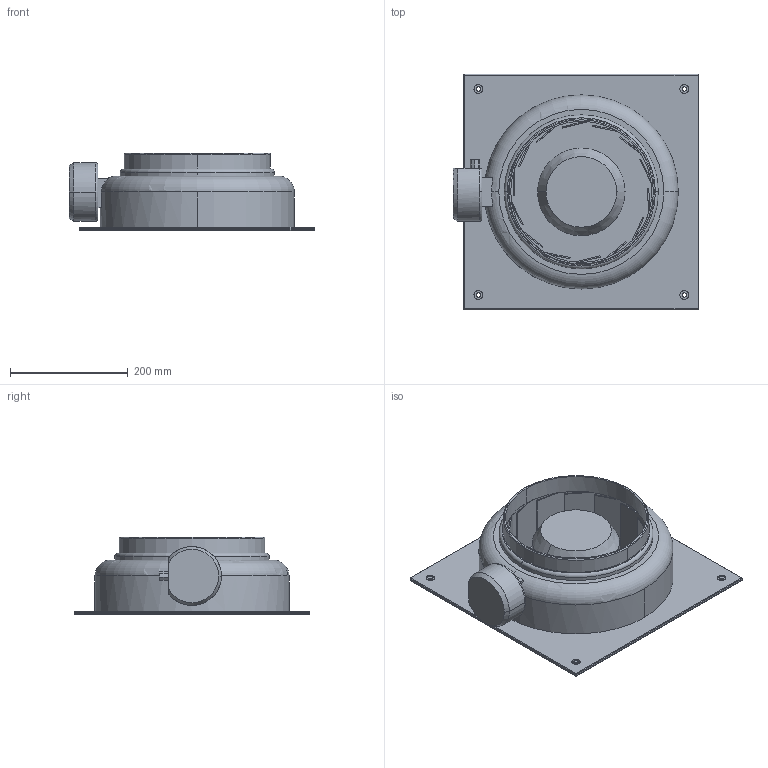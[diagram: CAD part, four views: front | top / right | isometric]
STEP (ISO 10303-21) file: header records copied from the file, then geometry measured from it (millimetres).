
FILE_DESCRIPTION(('STEP AP214'),'1');
FILE_NAME('fan_5145628400.stp','2017-03-31T18:13:35',('TraceParts'),('TraceParts S.A.'),'Spatial InterOp 3D',' ',' ');
FILE_SCHEMA(('automotive_design'));
Length unit declared in the file: millimetre
Products named in the file (1): fan_5145628400
Bounding box: 418 x 400 x 132 mm (x, y, z)
Volume: 3754650.8 mm3; surface area: 845469.2 mm2
Topology: 1 solids, 1 shells, 212 faces, 623 edges, 403 vertices
Faces by surface type: plane 115, cylinder 58, torus 27, sphere 8, cone 4
Entity records: 9279 total; most frequent: CARTESIAN_POINT 1783, ORIENTED_EDGE 1230, DIRECTION 1211, EDGE_CURVE 615, AXIS2_PLACEMENT_3D 419, VERTEX_POINT 403, LINE 373, VECTOR 373
